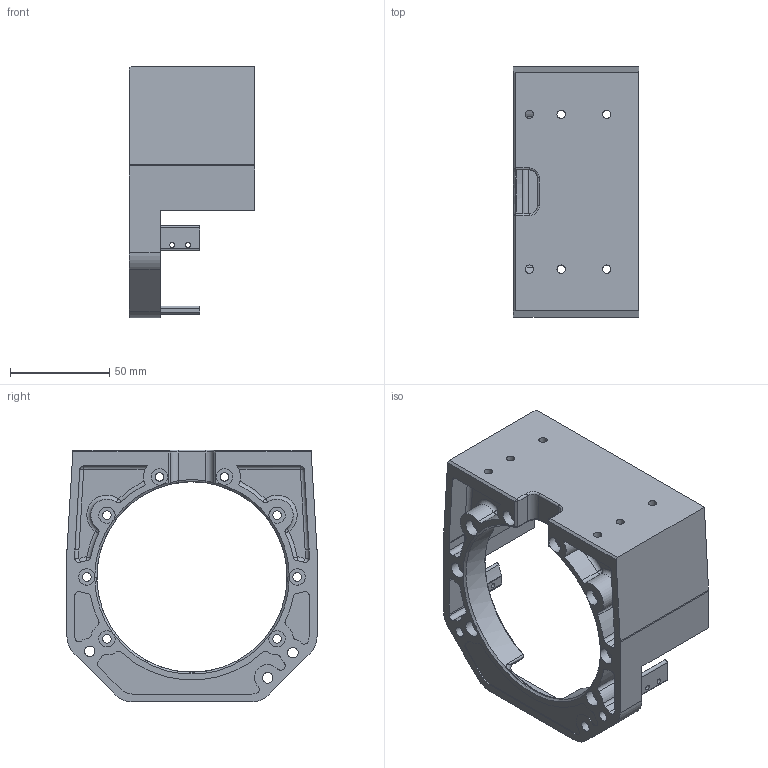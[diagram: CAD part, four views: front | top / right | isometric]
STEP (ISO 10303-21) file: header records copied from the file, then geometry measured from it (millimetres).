
FILE_DESCRIPTION(/* description */ ('STEP AP242 Edition 2','CAx-IF Rec.Pracs.---Representation and Presentation of Product Manufacturing Information (PMI)---4.0---2014-10-13','CAx-IF Rec.Pracs.---3D Tessellated Geometry---0.4---2014-09-14','2;1','CAx-IF Rec.Pracs.---User Defined Attributes---1.5---2016-08-15'),/* implementation_level */ '2;1');
FILE_NAME(/* name */ 'Assy_ForMFG - KD-D-101L_L_Hip_Static',/* time_stamp */ '2026-05-15T19:56:32Z',/* author */ (''),/* organization */ (''),/* preprocessor_version */ 'ST-DEVELOPER v20',/* originating_system */ 'ONSHAPE BY PTC INC, 1.215',/* authorisation */ ' ');
FILE_SCHEMA (('AP242_MANAGED_MODEL_BASED_3D_ENGINEERING_MIM_LF { 1 0 10303 442 3 1 4 }'));
Length unit declared in the file: metre
Products named in the file (1): KD-D-101L_L_Hip_Static
Bounding box: 63 x 126 x 127 mm (x, y, z)
Volume: 175940 mm3; surface area: 61600.4 mm2
Topology: 1 solids, 1 shells, 270 faces, 711 edges, 437 vertices
Faces by surface type: cylinder 144, plane 76, torus 19, cone 15, sphere 10, bspline 6
Full cylindrical faces by diameter (mm): 2.5 x6, 4.2 x6, 4.3 x8, 5.3 x3, 8.25 x8, 9.75 x3, 96 x1
Entity records: 8228 total; most frequent: CARTESIAN_POINT 1603, DIRECTION 1471, ORIENTED_EDGE 1286, EDGE_CURVE 643, AXIS2_PLACEMENT_3D 598, VERTEX_POINT 421, EDGE_LOOP 364, FACE_BOUND 364
